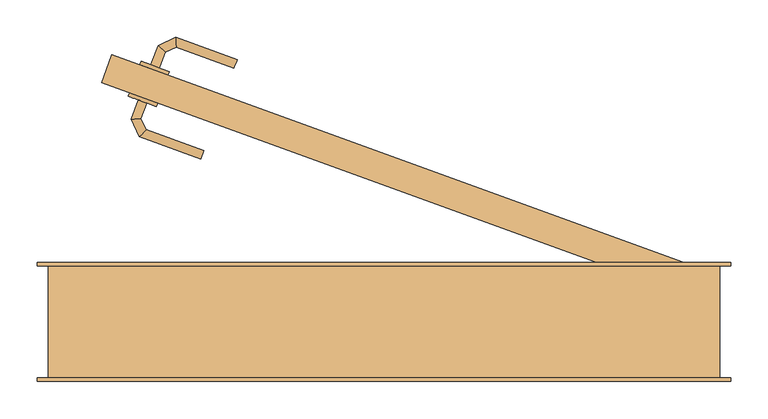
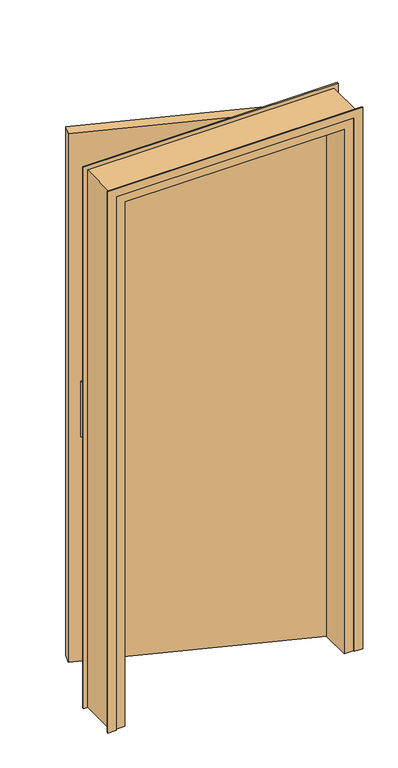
"""IFC4 building model written with IfcOpenShell, lengths in millimetres: door geometry, @_Int. Simple : @_PP (0.83m x 2.04m)."""

from ifc_helpers import new_model, si_unit, point, frame, frame_2d, origin, origin_with_axes, place, context, project, spatial, polyline, circle_curve, ellipse_curve, trimmed, segment, composite_curve, outline, extrude, faceted_brep, source, transform, mapped, element, save
from ifc_brep_helpers import plane_surface, cylinder_surface, advanced_brep


def door_c699e053(model_context):
    return source(origin(), model_context, "Body", "SolidModel", [
        extrude(outline(composite_curve([segment(trimmed(circle_curve(frame_2d((0.0, 40.0)), 40.0), [point((34.6410162, 60.0))], [point((34.6410162, 20.0))], False, "CARTESIAN"), True, "CONTINUOUS"), segment(polyline([(34.6410162, 20.0), (-175.3589838, 20.0)]), True, "CONTINUOUS"), segment(trimmed(circle_curve(frame_2d((-140.7179676, 40.0)), 40.0), [point((-175.3589838, 20.0))], [point((-175.3589838, 60.0))], False, "CARTESIAN"), True, "CONTINUOUS"), segment(polyline([(-175.3589838, 60.0), (34.6410162, 60.0)]), True, "CONTINUOUS")], self_intersect=False)), frame((-305.9756132, 324.6747046, 904.6410162), z_axis=(0.3420201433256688, 0.9396926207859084, 0.0), x_axis=(0.0, 0.0, -1.0)), (0.0, 0.0, 1.0), 5.0),
        extrude(outline(composite_curve([segment(trimmed(circle_curve(frame_2d((0.0, 40.0000001)), 40.0), [point((-34.6410162, 20.0))], [point((-34.6410162, 60.0))], False, "CARTESIAN"), True, "CONTINUOUS"), segment(polyline([(-34.6410162, 60.0), (175.3589838, 60.0)]), True, "CONTINUOUS"), segment(trimmed(circle_curve(frame_2d((140.7179676, 40.0000001)), 40.0), [point((175.3589838, 60.0))], [point((175.3589838, 20.0))], False, "CARTESIAN"), True, "CONTINUOUS"), segment(polyline([(175.3589838, 20.0), (-34.6410162, 20.0)]), True, "CONTINUOUS")], self_intersect=False)), frame((-321.3665196, 282.3885367, 1045.3589838), z_axis=(0.3420201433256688, 0.9396926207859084, 0.0), x_axis=(0.0, 0.0, -1.0)), (0.0, 0.0, 1.0), 5.0),
        advanced_brep(
        [(-347.491373, 345.1060943, 1007.0), (-347.491373, 345.1060943, 993.0), (-336.2150616, 341.0018526, 993.0), (-336.2150616, 341.0018526, 1007.0), (-328.457912, 362.3144458, 1007.0), (-338.0341909, 371.0894887, 1007.0), (-328.457912, 362.3144458, 993.0), (-338.0341909, 371.0894887, 993.0), (-313.9133269, 369.0966972, 1007.0), (-314.4798863, 382.0730413, 1007.0), (-313.9133269, 369.0966972, 993.0), (-314.4798863, 382.0730413, 993.0), (-232.1238807, 352.0979066, 1007.0), (-236.2281224, 340.8215952, 1007.0), (-236.2281224, 340.8215952, 993.0), (-232.1238807, 352.0979066, 993.0)],
        [
            (0, 1),
            (1, 2, circle_curve(frame((-341.8532173, 343.0539735, 1013.0457722), z_axis=(-0.3420201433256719, -0.9396926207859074, 0.0), x_axis=(0.9396926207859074, -0.3420201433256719, 0.0)), 20.9244589)),
            (2, 3),
            (3, 0, circle_curve(frame((-341.8532173, 343.0539735, 986.9542278), z_axis=(-0.3420201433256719, -0.9396926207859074, 0.0), x_axis=(0.9396926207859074, -0.3420201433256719, 0.0)), 20.9244589)),
            (3, 4),
            (4, 5, ellipse_curve(frame((-333.2460515, 366.7019672, 986.9542278), z_axis=(-0.6755902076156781, -0.7372773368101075, 0.0), x_axis=(0.7372773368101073, -0.6755902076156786, 0.0)), 22.6484711, 20.9244589)),
            (5, 0),
            (2, 6),
            (6, 4),
            (1, 7),
            (7, 6, ellipse_curve(frame((-333.2460515, 366.7019672, 1013.0457722), z_axis=(-0.6755902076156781, -0.7372773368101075, 0.0), x_axis=(0.7372773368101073, -0.6755902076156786, 0.0)), 22.6484711, 20.9244589)),
            (5, 7),
            (4, 8),
            (8, 9, ellipse_curve(frame((-314.1966066, 375.5848693, 986.9542278), z_axis=(-0.9990482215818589, -0.0436193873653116, 0.0), x_axis=(0.04361938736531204, -0.9990482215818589, 0.0)), 22.6484711, 20.9244589)),
            (9, 5),
            (6, 10),
            (10, 8),
            (7, 11),
            (11, 10, ellipse_curve(frame((-314.1966066, 375.5848693, 1013.0457722), z_axis=(-0.9990482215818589, -0.0436193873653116, 0.0), x_axis=(0.04361938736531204, -0.9990482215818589, 0.0)), 22.6484711, 20.9244589)),
            (9, 11),
            (12, 13, circle_curve(frame((-234.1760015, 346.4597509, 986.9542278), z_axis=(0.9396926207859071, -0.34202014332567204, 0.0), x_axis=(-0.3420201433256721, -0.9396926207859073, 0.0)), 20.9244589)),
            (13, 14),
            (14, 15, circle_curve(frame((-234.1760015, 346.4597509, 1013.0457722), z_axis=(0.9396926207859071, -0.34202014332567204, 0.0), x_axis=(-0.3420201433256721, -0.9396926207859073, 0.0)), 20.9244589)),
            (15, 12),
            (8, 13),
            (12, 9),
            (10, 14),
            (11, 15),
        ],
        [
            plane_surface(frame((-350.5167552, 346.2072434, 1000.0), z_axis=(-0.3420201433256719, -0.9396926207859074, 0.0), x_axis=(0.0, 0.0, -1.0))),
            cylinder_surface(frame((-341.8532173, 343.0539735, 986.9542278), z_axis=(-0.3420201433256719, -0.9396926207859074, 0.0), x_axis=(0.9396926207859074, -0.3420201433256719, 0.0)), 20.9244589),
            plane_surface(frame((-336.2150616, 341.0018526, 1007.0), z_axis=(0.9396926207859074, -0.3420201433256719, 0.0), x_axis=(0.3420201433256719, 0.9396926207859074, 0.0))),
            cylinder_surface(frame((-341.8532173, 343.0539735, 1013.0457722), z_axis=(-0.3420201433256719, -0.9396926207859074, 0.0), x_axis=(0.9396926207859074, -0.3420201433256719, 0.0)), 20.9244589),
            plane_surface(frame((-347.491373, 345.1060943, 993.0), z_axis=(-0.9396926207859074, 0.3420201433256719, 0.0), x_axis=(0.3420201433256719, 0.9396926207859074, 0.0))),
            cylinder_surface(frame((-333.2460515, 366.7019672, 986.9542278), z_axis=(-0.9063077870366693, -0.42261826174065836, 0.0), x_axis=(0.42261826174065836, -0.9063077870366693, 0.0)), 20.9244589),
            plane_surface(frame((-328.457912, 362.3144458, 1007.0), z_axis=(0.42261826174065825, -0.9063077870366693, 0.0), x_axis=(0.9063077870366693, 0.42261826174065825, 0.0))),
            cylinder_surface(frame((-333.2460515, 366.7019672, 1013.0457722), z_axis=(-0.9063077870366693, -0.42261826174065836, 0.0), x_axis=(0.42261826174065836, -0.9063077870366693, 0.0)), 20.9244589),
            plane_surface(frame((-338.0341909, 371.0894887, 993.0), z_axis=(-0.42261826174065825, 0.9063077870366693, 0.0), x_axis=(0.9063077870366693, 0.42261826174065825, 0.0))),
            plane_surface(frame((-234.1760015, 346.4597509, 990.7804555), z_axis=(0.9396926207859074, -0.3420201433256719, 0.0), x_axis=(-0.3420201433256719, -0.9396926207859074, 0.0))),
            cylinder_surface(frame((-314.1966066, 375.5848693, 986.9542278), z_axis=(-0.9396926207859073, 0.3420201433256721, 0.0), x_axis=(-0.3420201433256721, -0.9396926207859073, 0.0)), 20.9244589),
            plane_surface(frame((-313.9133269, 369.0966972, 1007.0), z_axis=(-0.3420201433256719, -0.9396926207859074, 0.0), x_axis=(0.9396926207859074, -0.3420201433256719, 0.0))),
            cylinder_surface(frame((-314.1966066, 375.5848693, 1013.0457722), z_axis=(-0.9396926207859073, 0.3420201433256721, 0.0), x_axis=(-0.3420201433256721, -0.9396926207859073, 0.0)), 20.9244589),
            plane_surface(frame((-314.4798863, 382.0730413, 993.0), z_axis=(0.3420201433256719, 0.9396926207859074, 0.0), x_axis=(0.9396926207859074, -0.3420201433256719, 0.0))),
        ],
        [
            (0, [[1, 2, 3, 4]]),
            (1, [[5, 6, 7, -4]]),
            (2, [[8, 9, -5, -3]]),
            (3, [[10, 11, -8, -2]]),
            (4, [[-7, 12, -10, -1]]),
            (5, [[13, 14, 15, -6]]),
            (6, [[16, 17, -13, -9]]),
            (7, [[18, 19, -16, -11]]),
            (8, [[-15, 20, -18, -12]]),
            (9, [[21, 22, 23, 24]]),
            (10, [[25, -21, 26, -14]]),
            (11, [[27, -22, -25, -17]]),
            (12, [[28, -23, -27, -19]]),
            (13, [[-26, -24, -28, -20]]),
        ],
    ),
        advanced_brep(
        [(-353.3160687, 294.0172216, 993.0), (-364.5923802, 298.1214633, 993.0), (-364.5923802, 298.1214633, 1007.0), (-353.3160687, 294.0172216, 1007.0), (-361.0064616, 272.8880408, 1007.0), (-361.0064616, 272.8880408, 993.0), (-373.9828056, 272.3214814, 1007.0), (-373.9828056, 272.3214814, 993.0), (-354.142025, 258.1672091, 1007.0), (-354.142025, 258.1672091, 993.0), (-362.9170679, 248.5909302, 1007.0), (-362.9170679, 248.5909302, 993.0), (-276.5605303, 229.9298543, 993.0), (-276.5605303, 229.9298543, 1007.0), (-280.664772, 218.6535428, 1007.0), (-280.664772, 218.6535428, 993.0)],
        [
            (0, 1, circle_curve(frame((-358.9542245, 296.0693424, 1013.0457722), z_axis=(0.3420201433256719, 0.9396926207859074, 0.0), x_axis=(-0.9396926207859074, 0.3420201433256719, 0.0)), 20.9244589)),
            (1, 2),
            (2, 3, circle_curve(frame((-358.9542245, 296.0693424, 986.9542278), z_axis=(0.3420201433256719, 0.9396926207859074, 0.0), x_axis=(-0.9396926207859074, 0.3420201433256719, 0.0)), 20.9244589)),
            (3, 0),
            (3, 4),
            (4, 5),
            (5, 0),
            (2, 6),
            (6, 4, ellipse_curve(frame((-367.4946336, 272.6047611, 986.9542278), z_axis=(-0.043619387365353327, 0.9990482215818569, 0.0), x_axis=(0.9990482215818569, 0.04361938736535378, 0.0)), 22.6484711, 20.9244589)),
            (1, 7),
            (7, 6),
            (5, 7, ellipse_curve(frame((-367.4946336, 272.6047611, 1013.0457722), z_axis=(-0.043619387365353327, 0.9990482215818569, 0.0), x_axis=(0.9990482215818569, 0.04361938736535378, 0.0)), 22.6484711, 20.9244589)),
            (4, 8),
            (8, 9),
            (9, 5),
            (6, 10),
            (10, 8, ellipse_curve(frame((-358.5295465, 253.3790696, 986.9542278), z_axis=(-0.737277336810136, 0.6755902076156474, 0.0), x_axis=(0.6755902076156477, 0.7372773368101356, 0.0)), 22.6484711, 20.9244589)),
            (7, 11),
            (11, 10),
            (9, 11, ellipse_curve(frame((-358.5295465, 253.3790696, 1013.0457722), z_axis=(-0.737277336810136, 0.6755902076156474, 0.0), x_axis=(0.6755902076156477, 0.7372773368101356, 0.0)), 22.6484711, 20.9244589)),
            (12, 13),
            (13, 14, circle_curve(frame((-278.6126511, 224.2916985, 986.9542278), z_axis=(0.9396926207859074, -0.3420201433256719, 0.0), x_axis=(-0.3420201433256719, -0.9396926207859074, 0.0)), 20.9244589)),
            (14, 15),
            (15, 12, circle_curve(frame((-278.6126511, 224.2916985, 1013.0457722), z_axis=(0.9396926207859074, -0.3420201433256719, 0.0), x_axis=(-0.3420201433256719, -0.9396926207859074, 0.0)), 20.9244589)),
            (8, 13),
            (12, 9),
            (10, 14),
            (11, 15),
        ],
        [
            plane_surface(frame((-367.6177623, 299.2226123, 1000.0), z_axis=(0.3420201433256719, 0.9396926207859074, 0.0), x_axis=(0.0, 0.0, 1.0))),
            plane_surface(frame((-353.3160687, 294.0172216, 993.0), z_axis=(0.9396926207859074, -0.3420201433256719, 0.0), x_axis=(-0.3420201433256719, -0.9396926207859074, 0.0))),
            cylinder_surface(frame((-358.9542245, 296.0693424, 986.9542278), z_axis=(0.3420201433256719, 0.9396926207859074, 0.0), x_axis=(-0.9396926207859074, 0.3420201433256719, 0.0)), 20.9244589),
            plane_surface(frame((-364.5923802, 298.1214633, 1007.0), z_axis=(-0.9396926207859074, 0.3420201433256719, 0.0), x_axis=(-0.3420201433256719, -0.9396926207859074, 0.0))),
            cylinder_surface(frame((-358.9542245, 296.0693424, 1013.0457722), z_axis=(0.3420201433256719, 0.9396926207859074, 0.0), x_axis=(-0.9396926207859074, 0.3420201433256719, 0.0)), 20.9244589),
            plane_surface(frame((-361.0064616, 272.8880408, 993.0), z_axis=(0.906307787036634, 0.42261826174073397, 0.0), x_axis=(0.42261826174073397, -0.906307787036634, 0.0))),
            cylinder_surface(frame((-367.4946336, 272.6047611, 986.9542278), z_axis=(-0.422618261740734, 0.9063077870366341, 0.0), x_axis=(-0.9063077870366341, -0.422618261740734, 0.0)), 20.9244589),
            plane_surface(frame((-373.9828056, 272.3214814, 1007.0), z_axis=(-0.906307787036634, -0.4226182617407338, 0.0), x_axis=(0.4226182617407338, -0.906307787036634, 0.0))),
            cylinder_surface(frame((-367.4946336, 272.6047611, 1013.0457722), z_axis=(-0.422618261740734, 0.9063077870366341, 0.0), x_axis=(-0.9063077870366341, -0.422618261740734, 0.0)), 20.9244589),
            plane_surface(frame((-278.6126511, 224.2916985, 990.7804555), z_axis=(0.9396926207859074, -0.3420201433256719, 0.0), x_axis=(-0.3420201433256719, -0.9396926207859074, 0.0))),
            plane_surface(frame((-354.142025, 258.1672091, 993.0), z_axis=(0.3420201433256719, 0.9396926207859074, 0.0), x_axis=(0.9396926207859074, -0.3420201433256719, 0.0))),
            cylinder_surface(frame((-358.5295465, 253.3790696, 986.9542278), z_axis=(-0.9396926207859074, 0.3420201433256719, 0.0), x_axis=(-0.3420201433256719, -0.9396926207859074, 0.0)), 20.9244589),
            plane_surface(frame((-362.9170679, 248.5909302, 1007.0), z_axis=(-0.3420201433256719, -0.9396926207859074, 0.0), x_axis=(0.9396926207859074, -0.3420201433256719, 0.0))),
            cylinder_surface(frame((-358.5295465, 253.3790696, 1013.0457722), z_axis=(-0.9396926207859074, 0.3420201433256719, 0.0), x_axis=(-0.3420201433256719, -0.9396926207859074, 0.0)), 20.9244589),
        ],
        [
            (0, [[1, 2, 3, 4]]),
            (1, [[5, 6, 7, -4]]),
            (2, [[8, 9, -5, -3]]),
            (3, [[10, 11, -8, -2]]),
            (4, [[-7, 12, -10, -1]]),
            (5, [[13, 14, 15, -6]]),
            (6, [[16, 17, -13, -9]]),
            (7, [[18, 19, -16, -11]]),
            (8, [[-15, 20, -18, -12]]),
            (9, [[21, 22, 23, 24]]),
            (10, [[25, -21, 26, -14]]),
            (11, [[27, -22, -25, -17]]),
            (12, [[28, -23, -27, -19]]),
            (13, [[-26, -24, -28, -20]]),
        ],
    ),
        extrude(outline(polyline([(-413.625681, 321.2890141), (-399.9448753, 358.876719), (380.0, 75.0), (366.3191943, 37.4122952), (-413.625681, 321.2890141)])), origin_with_axes(), (0.0, 0.0, 1.0), 2040.0),
        faceted_brep([(-485.0, 75.0, 0.0), (-450.0, 75.0, 0.0), (-450.0, 35.0, 0.0), (-435.0, 35.0, 0.0), (-435.0, -75.0, 0.0), (-485.0, -75.0, 0.0), (-485.0, -75.0, 2075.0), (-485.0, 75.0, 2075.0), (-435.0, -75.0, 2025.0), (365.0, -75.0, 2025.0), (365.0, -75.0, 0.0), (415.0, -75.0, 0.0), (415.0, -75.0, 2075.0), (-435.0, 35.0, 2025.0), (-450.0, 35.0, 2040.0), (380.0, 35.0, 2040.0), (380.0, 35.0, 0.0), (365.0, 35.0, 0.0), (365.0, 35.0, 2025.0), (-450.0, 75.0, 2040.0), (415.0, 75.0, 2075.0), (415.0, 75.0, 0.0), (380.0, 75.0, 0.0), (380.0, 75.0, 2040.0)], [[[0, 1, 2, 3, 4, 5]], [[5, 6, 7, 0]], [[4, 8, 9, 10, 11, 12, 6, 5]], [[3, 13, 8, 4]], [[2, 14, 15, 16, 17, 18, 13, 3]], [[1, 19, 14, 2]], [[0, 7, 20, 21, 22, 23, 19, 1]], [[12, 11, 21, 20]], [[21, 11, 10, 17, 16, 22]], [[18, 17, 10, 9]], [[23, 22, 16, 15]], [[6, 12, 20, 7]], [[13, 18, 9, 8]], [[19, 23, 15, 14]]]),
        extrude(outline(polyline([(0.0, -470.0), (2060.0, -470.0), (2060.0, 400.0), (0.0, 400.0), (0.0, 430.0), (2090.0, 430.0), (2090.0, -500.0), (0.0, -500.0), (0.0, -470.0)])), frame((0.0, 75.0, 0.0), z_axis=(0.0, 1.0, 0.0), x_axis=(0.0, 0.0, 1.0)), (0.0, 0.0, 1.0), 5.0),
        extrude(outline(polyline([(0.0, -470.0), (2060.0, -470.0), (2060.0, 400.0), (0.0, 400.0), (0.0, 430.0), (2090.0, 430.0), (2090.0, -500.0), (0.0, -500.0), (0.0, -470.0)])), frame((0.0, -80.0, 0.0), z_axis=(0.0, 1.0, 0.0), x_axis=(0.0, 0.0, 1.0)), (0.0, 0.0, 1.0), 5.0),
    ])


if __name__ == "__main__":
    model = new_model("IFC4")
    model_context = context("Model", 3, world=origin())
    ifc_project = project(units=[si_unit("LENGTHUNIT", "METRE", prefix="MILLI")], contexts=[model_context])
    site = spatial("IfcSite", under=ifc_project)
    building = spatial("IfcBuilding", under=site)
    placement = place(None, origin())
    door_shape = door_c699e053(model_context)
    element("IfcDoor", 1, ObjectType="@_Int. Simple : @_PP (0.83m x 2.04m)", at=placement, inside=building, context=model_context, shape_type="MappedRepresentation", body=[
        mapped(door_shape, transform((0.0, 0.0, 0.0), x_axis=(1.0, 0.0, 0.0), y_axis=(0.0, 1.0, 0.0), z_axis=(0.0, 0.0, 1.0))),
    ])
    save(model, "model.ifc")
